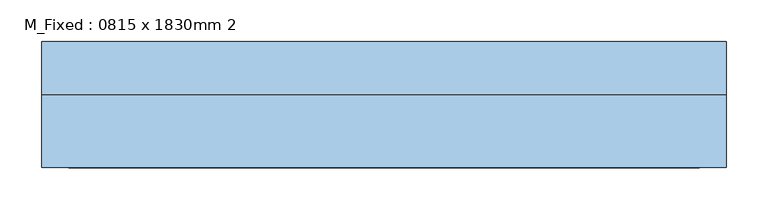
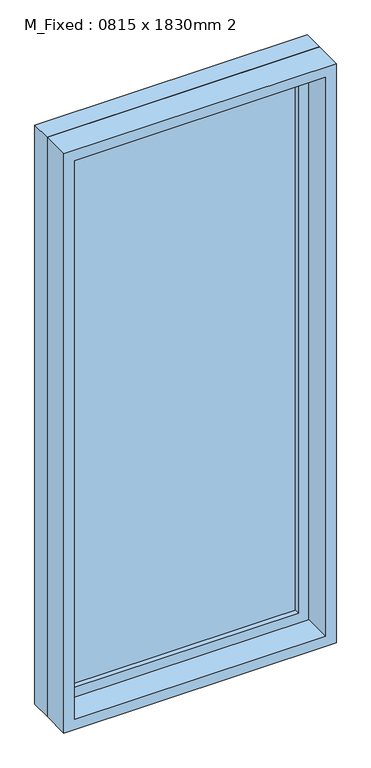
"""IFC4 building model written with IfcOpenShell, lengths in millimetres: window geometry, M_Fixed : 0815 x 1830mm 2."""

from ifc_helpers import new_model, si_unit, frame, origin, place, context, project, spatial, polyline, outline, extrude, source, transform, mapped, element, save


def m_fixed_0815_x_1830mm_2_422ed95c(model_context):
    return source(origin(), model_context, "Body", "SweptSolid", [
        extrude(outline(polyline([(-344.5, 53.0), (344.5, 53.0), (344.5, 41.0), (-344.5, 41.0), (-344.5, 53.0)])), frame((0.0, 0.0, 368.0), z_axis=(0.0, 0.0, 1.0), x_axis=(1.0, 0.0, 0.0)), (0.0, 0.0, 1.0), 1704.0),
        extrude(outline(polyline([(2116.0, -388.5), (324.0, -388.5), (324.0, 388.5), (2116.0, 388.5), (2116.0, -388.5)]), holes=[polyline([(2072.0, -344.5), (2072.0, 344.5), (368.0, 344.5), (368.0, -344.5), (2072.0, -344.5)])]), frame((0.0, 25.0, 0.0), z_axis=(0.0, 1.0, 0.0), x_axis=(0.0, 0.0, 1.0)), (0.0, 0.0, 1.0), 44.0),
        extrude(outline(polyline([(2135.0, -407.5), (305.0, -407.5), (305.0, 407.5), (2135.0, 407.5), (2135.0, -407.5)]), holes=[polyline([(2116.0, -388.5), (2116.0, 388.5), (324.0, 388.5), (324.0, -388.5), (2116.0, -388.5)])]), frame((0.0, 25.0, 0.0), z_axis=(0.0, 1.0, 0.0), x_axis=(0.0, 0.0, 1.0)), (0.0, 0.0, 1.0), 63.0),
        extrude(outline(polyline([(2135.0, -407.5), (305.0, -407.5), (305.0, 407.5), (2135.0, 407.5), (2135.0, -407.5)]), holes=[polyline([(2103.0, -375.5), (2103.0, 375.5), (337.0, 375.5), (337.0, -375.5), (2103.0, -375.5)])]), frame((0.0, -62.0, 0.0), z_axis=(0.0, 1.0, 0.0), x_axis=(0.0, 0.0, 1.0)), (0.0, 0.0, 1.0), 87.0),
    ])


if __name__ == "__main__":
    model = new_model("IFC4")
    model_context = context("Model", 3, world=origin())
    ifc_project = project(units=[si_unit("LENGTHUNIT", "METRE", prefix="MILLI")], contexts=[model_context])
    site = spatial("IfcSite", under=ifc_project)
    building = spatial("IfcBuilding", under=site)
    placement = place(None, origin())
    m_fixed_0815_x_1830mm_2_shape = m_fixed_0815_x_1830mm_2_422ed95c(model_context)
    element("IfcWindow", 1, ObjectType="M_Fixed : 0815 x 1830mm 2", at=placement, inside=building, context=model_context, shape_type="MappedRepresentation", body=[
        mapped(m_fixed_0815_x_1830mm_2_shape, transform((0.0, 0.0, 0.0), x_axis=(1.0, 0.0, 0.0), y_axis=(0.0, 1.0, 0.0), z_axis=(0.0, 0.0, 1.0))),
    ])
    save(model, "model.ifc")
